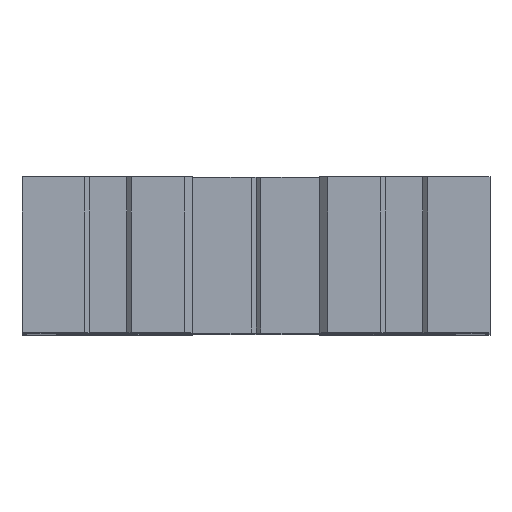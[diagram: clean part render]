
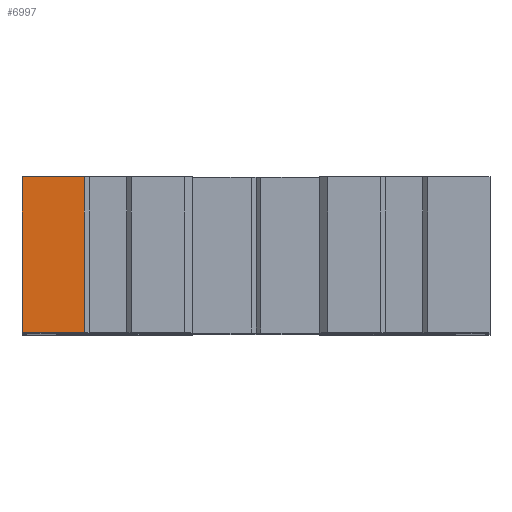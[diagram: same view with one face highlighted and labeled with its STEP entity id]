
A CAD part, top view. The second image highlights one B-rep face of the part: STEP entity #6997.
In plain terms, the highlighted planar face has unit normal (0, 0, 1).
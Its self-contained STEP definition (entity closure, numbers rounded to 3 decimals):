
#265=DIRECTION('',(1.,0.,0.));
#266=VECTOR('',#265,4.);
#267=CARTESIAN_POINT('',(-15.,0.,45.));
#268=LINE('',#267,#266);
#1585=DIRECTION('',(1.,0.,0.));
#1586=VECTOR('',#1585,4.);
#1587=CARTESIAN_POINT('',(-15.,10.,45.));
#1588=LINE('',#1587,#1586);
#2449=DIRECTION('',(0.,1.,0.));
#2450=VECTOR('',#2449,10.);
#2451=CARTESIAN_POINT('',(-11.,0.,45.));
#2452=LINE('',#2451,#2450);
#2453=DIRECTION('',(0.,1.,0.));
#2454=VECTOR('',#2453,10.);
#2455=CARTESIAN_POINT('',(-15.,0.,45.));
#2456=LINE('',#2455,#2454);
#3021=CARTESIAN_POINT('',(-15.,0.,45.));
#3022=CARTESIAN_POINT('',(-15.,10.,45.));
#3023=VERTEX_POINT('',#3021);
#3024=VERTEX_POINT('',#3022);
#3591=CARTESIAN_POINT('',(-11.,0.,45.));
#3592=VERTEX_POINT('',#3591);
#3719=CARTESIAN_POINT('',(-11.,10.,45.));
#3720=VERTEX_POINT('',#3719);
#6985=CARTESIAN_POINT('',(-15.,0.,45.));
#6986=DIRECTION('',(0.,0.,1.));
#6987=DIRECTION('',(1.,0.,0.));
#6988=AXIS2_PLACEMENT_3D('',#6985,#6986,#6987);
#6989=PLANE('',#6988);
#6991=ORIENTED_EDGE('',*,*,#6990,.F.);
#6992=ORIENTED_EDGE('',*,*,#4070,.F.);
#6993=ORIENTED_EDGE('',*,*,#5603,.T.);
#6994=ORIENTED_EDGE('',*,*,#5008,.T.);
#6995=EDGE_LOOP('',(#6991,#6992,#6993,#6994));
#6996=FACE_OUTER_BOUND('',#6995,.F.);
#6997=ADVANCED_FACE('',(#6996),#6989,.T.);
#4070=EDGE_CURVE('',#3023,#3592,#268,.T.);
#5008=EDGE_CURVE('',#3024,#3720,#1588,.T.);
#5603=EDGE_CURVE('',#3023,#3024,#2456,.T.);
#6990=EDGE_CURVE('',#3592,#3720,#2452,.T.);
